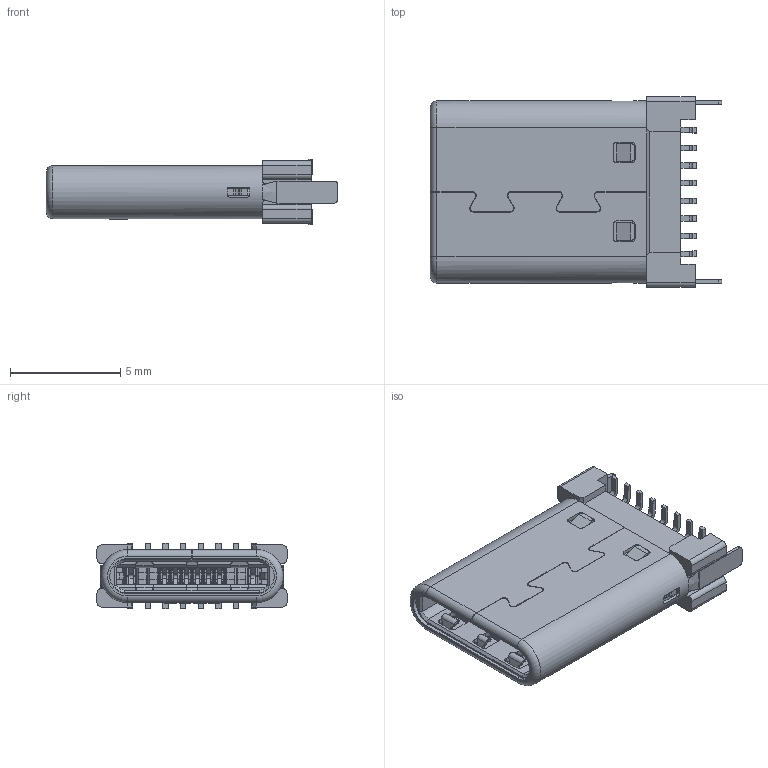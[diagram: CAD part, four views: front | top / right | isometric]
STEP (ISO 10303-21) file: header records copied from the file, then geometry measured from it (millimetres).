
FILE_DESCRIPTION (( 'STEP AP214' ), '1' );
FILE_NAME ('C-2.STEP', '2026-06-12T01:12:05', ( '' ), ( '' ), 'SwSTEP 2.0', 'SolidWorks 2024', '' );
FILE_SCHEMA (( 'AUTOMOTIVE_DESIGN' ));
Length unit declared in the file: millimetre
Products named in the file (1): C-2
Bounding box: 13.2 x 8.61 x 2.95 mm (x, y, z)
Volume: 147.3 mm3; surface area: 1145.5 mm2
Topology: 1 solids, 4 shells, 2399 faces, 6895 edges, 4485 vertices
Faces by surface type: plane 1740, cylinder 544, bspline 65, cone 44, torus 6
Entity records: 81692 total; most frequent: CARTESIAN_POINT 18967, ORIENTED_EDGE 13790, DIRECTION 12065, EDGE_CURVE 6895, LINE 5215, VECTOR 5215, VERTEX_POINT 4485, AXIS2_PLACEMENT_3D 3425
